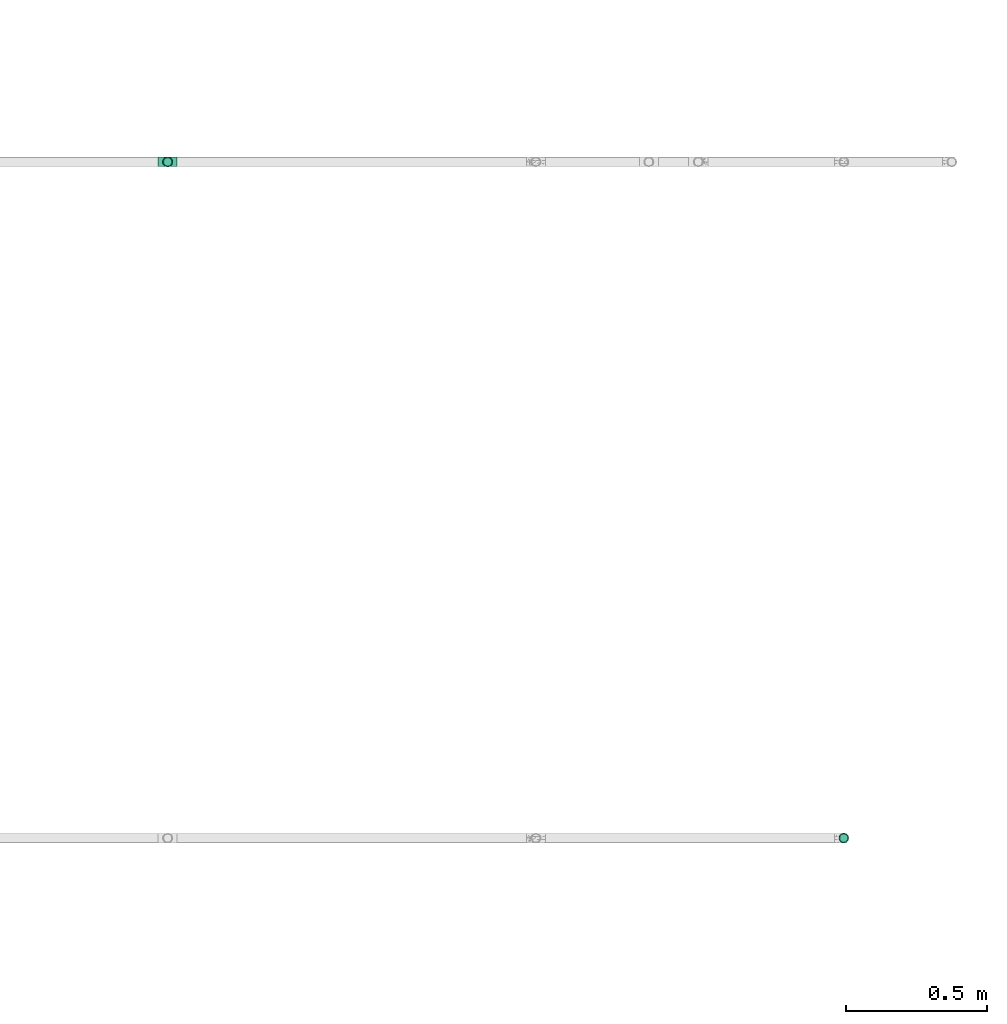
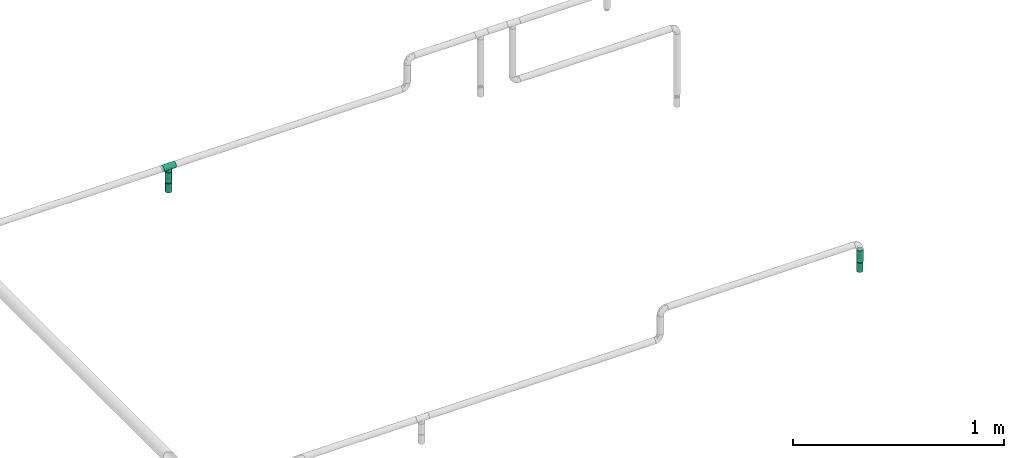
# One storey, part 24 of 45: 3 flow fittings, 2 flow segments, 2 flow terminals.
"""IFC2X3 building model written with IfcOpenShell, lengths in millimetres."""

from ifc_helpers import new_model, entity, si_unit, converted_unit, derived_unit, direction, frame, origin_with_axes, origin_2d_with_axis, place, context, subcontext, project, spatial, hollow_circle, extrude, open_shell, surface_model, source, transform, mapped, type_object, element, save


model = new_model("IFC2X3")

# Units and contexts
model_context = context("Model", 3, precision=0.01, world=frame((0.0, 4.29681676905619e-09, 0.0)), true_north=direction((4.01073788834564e-13, 1.0)))
plan_context = context("Plan", 3, precision=0.01, world=frame((0.0, 4.29681676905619e-09, 0.0)), true_north=direction((4.01073788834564e-13, 1.0)))
body_context = subcontext(model_context, "Body", "Model", "MODEL_VIEW")
ifc_project = project(units=[converted_unit("PLANEANGLEUNIT", "DEGREE", entity("IfcPositiveLengthMeasure", 0.0174532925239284), si_unit("PLANEANGLEUNIT", "RADIAN"), dimensions=[0, 0, 0, 0, 0, 0, 0]), si_unit("AREAUNIT", "SQUARE_METRE"), si_unit("LENGTHUNIT", "METRE", prefix="MILLI"), si_unit("MASSUNIT", "GRAM", prefix="KILO"), si_unit("POWERUNIT", "WATT"), si_unit("PRESSUREUNIT", "PASCAL", prefix="KILO"), si_unit("FORCEUNIT", "NEWTON", prefix="KILO"), si_unit("ELECTRICVOLTAGEUNIT", "VOLT"), si_unit("ELECTRICCURRENTUNIT", "AMPERE"), si_unit("THERMODYNAMICTEMPERATUREUNIT", "DEGREE_CELSIUS"), si_unit("TIMEUNIT", "SECOND"), si_unit("VOLUMEUNIT", "CUBIC_METRE"), derived_unit("LINEARVELOCITYUNIT", [(si_unit("LENGTHUNIT", "METRE"), 1), (si_unit("TIMEUNIT", "SECOND"), -1)]), derived_unit("VOLUMETRICFLOWRATEUNIT", [(si_unit("VOLUMEUNIT", "CUBIC_METRE"), 1), (si_unit("TIMEUNIT", "SECOND"), -1)]), derived_unit("THERMALTRANSMITTANCEUNIT", [(si_unit("POWERUNIT", "WATT"), 1), (si_unit("THERMODYNAMICTEMPERATUREUNIT", "KELVIN"), -1), (si_unit("AREAUNIT", "SQUARE_METRE"), -1)]), derived_unit("SOUNDPRESSUREUNIT", [(si_unit("PRESSUREUNIT", "PASCAL"), 1)])], contexts=[model_context, plan_context])

# Site, building, storey
site_placement = place(None, frame((0.0, -4.29681676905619e-09, 0.0), z_axis=(0.0, 0.0, 1.0), x_axis=(1.0, 0.0, 0.0)))
site = spatial("IfcSite", under=ifc_project, at=site_placement, CompositionType="ELEMENT")
building_placement = place(site_placement, frame((0.0, 4.29681676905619e-09, 0.0), z_axis=(0.0, 0.0, 1.0), x_axis=(1.0, 0.0, 0.0)))
building = spatial("IfcBuilding", under=site, at=building_placement, Name="mc-building", CompositionType="ELEMENT")
storey_placement = place(building_placement, frame((0.0, 0.0, 210200.0), z_axis=(0.0, 0.0, 1.0), x_axis=(1.0, 0.0, 0.0)))
storey = spatial("IfcBuildingStorey", under=building, at=storey_placement, Name="Nivå F - 0,7 m", CompositionType="ELEMENT", Elevation=210200.0)

# Flow fittings
pipe_fitting_type_1 = type_object("IfcPipeFittingType", Name="magi_pipe_fe_tee_centric_90_001", PredefinedType="JUNCTION")
shared_shape_1 = source(origin_with_axes(), body_context, "Body", "SurfaceModel", [
    surface_model("IfcShellBasedSurfaceModel", [(-33.8, 4.37404, -16.32415), (-33.8, 0.0, -16.9), (-33.8, 16.32415, -4.37404), (-33.8, 8.45, -14.63583), (-33.8, 11.9501, -11.9501), (-33.8, 14.63583, -8.45), (-33.8, -16.9, 0.0), (-33.8, -11.9501, -11.9501), (-33.8, -14.63583, -8.45), (-33.8, -8.45, -14.63583), (-33.8, -4.37404, -16.32415), (-33.8, -16.32415, -4.37404), (-33.8, 14.63583, 8.45), (-33.8, 16.32415, 4.37404), (-33.8, -8.45, 14.63583), (-33.8, 8.45, 14.63583), (-33.8, 11.9501, 11.9501), (-33.8, 4.37404, 16.32415), (-33.8, 0.0, 16.9), (-33.8, -11.9501, 11.9501), (-33.8, -14.63583, 8.45), (-33.8, -16.32415, 4.37404), (-33.8, -4.37404, 16.32415), (-33.8, 16.9, 0.0), (33.8, 4.37404, -16.32415), (33.8, -16.9, 0.0), (33.8, 0.0, -16.9), (33.8, 14.63583, -8.45), (33.8, 8.45, -14.63583), (33.8, 16.32415, -4.37404), (33.8, 11.9501, -11.9501), (33.8, -16.32415, 4.37404), (33.8, -8.45, -14.63583), (33.8, -4.37404, -16.32415), (33.8, -11.9501, -11.9501), (33.8, -14.63583, -8.45), (33.8, -16.32415, -4.37404), (33.8, 16.32415, 4.37404), (33.8, 8.45, 14.63583), (33.8, 14.63583, 8.45), (33.8, 11.9501, 11.9501), (33.8, -8.45, 14.63583), (33.8, 4.37404, 16.32415), (33.8, -14.63583, 8.45), (33.8, -11.9501, 11.9501), (33.8, 0.0, 16.9), (33.8, -4.37404, 16.32415), (33.8, 16.9, 0.0), (16.28698, -16.28698, 4.51047), (16.9, -16.9, 0.0), (14.62704, -14.62704, 8.4652), (9.47213, -9.47213, 13.99602), (12.26343, -12.26343, 11.62834), (-16.9, -16.9, 0.0), (-16.28698, -16.28698, 4.51047), (-14.62704, -14.62704, 8.4652), (-12.26343, -12.26343, 11.62834), (-9.47213, -9.47213, 13.99602), (-6.42894, -6.42894, 15.62942), (6.42894, -6.42894, 15.62942), (3.24522, -3.24522, 16.58549), (0.0, 0.0, 16.9), (-3.24522, -3.24522, 16.58549), (3.24522, -3.24522, -16.58549), (0.0, 0.0, -16.9), (-3.24522, -3.24522, -16.58549), (-6.42894, -6.42894, -15.62942), (6.42894, -6.42894, -15.62942), (9.47213, -9.47213, -13.99602), (12.26343, -12.26343, -11.62834), (14.62704, -14.62704, -8.4652), (16.28698, -16.28698, -4.51047), (-9.47213, -9.47213, -13.99602), (-12.26343, -12.26343, -11.62834), (-16.28698, -16.28698, -4.51047), (-14.62704, -14.62704, -8.4652), (4.37404, -25.35, -16.32415), (-16.9, -25.35, 0.0), (0.0, -25.35, -16.9), (14.63583, -25.35, -8.45), (8.45, -25.35, -14.63583), (16.32415, -25.35, -4.37404), (11.9501, -25.35, -11.9501), (-11.9501, -25.35, -11.9501), (-8.45, -25.35, -14.63583), (-4.37404, -25.35, -16.32415), (-14.63583, -25.35, -8.45), (-16.32415, -25.35, -4.37404), (16.9, -25.35, 0.0), (8.45, -25.35, 14.63583), (16.32415, -25.35, 4.37404), (14.63583, -25.35, 8.45), (-8.45, -25.35, 14.63583), (11.9501, -25.35, 11.9501), (4.37404, -25.35, 16.32415), (-16.32415, -25.35, 4.37404), (-11.9501, -25.35, 11.9501), (-14.63583, -25.35, 8.45), (0.0, -25.35, 16.9), (-4.37404, -25.35, 16.32415)], [open_shell([[[0, 1, 2]], [[3, 0, 4]], [[0, 2, 5]], [[4, 0, 5]], [[6, 2, 1]], [[7, 8, 9]], [[1, 10, 9]], [[11, 6, 8]], [[1, 9, 8]], [[1, 8, 6]], [[6, 12, 2]], [[12, 13, 2]], [[14, 12, 6]], [[12, 14, 15]], [[16, 12, 15]], [[17, 15, 18]], [[19, 14, 20]], [[21, 20, 14]], [[22, 18, 14]], [[14, 6, 21]], [[14, 18, 15]], [[23, 2, 13]], [[24, 25, 26]], [[27, 24, 28]], [[27, 29, 24]], [[27, 28, 30]], [[31, 25, 24]], [[26, 32, 33]], [[26, 34, 32]], [[35, 25, 36]], [[35, 34, 26]], [[25, 35, 26]], [[24, 29, 31]], [[29, 37, 38]], [[38, 37, 39]], [[38, 31, 29]], [[38, 39, 40]], [[41, 38, 42]], [[43, 41, 44]], [[41, 43, 31]], [[41, 45, 46]], [[41, 31, 38]], [[42, 45, 41]], [[29, 47, 37]], [[31, 43, 48]], [[25, 31, 49]], [[49, 31, 48]], [[43, 50, 48]], [[44, 41, 51]], [[50, 43, 52]], [[51, 52, 44]], [[52, 43, 44]], [[53, 54, 21]], [[53, 21, 6]], [[21, 54, 20]], [[54, 55, 20]], [[56, 57, 19]], [[19, 20, 56]], [[19, 57, 14]], [[56, 20, 55]], [[14, 57, 58]], [[51, 41, 59]], [[60, 45, 61]], [[59, 46, 60]], [[46, 59, 41]], [[60, 46, 45]], [[61, 45, 42]], [[39, 37, 13]], [[16, 38, 40]], [[12, 40, 39]], [[42, 38, 15]], [[23, 37, 47]], [[62, 61, 18]], [[62, 22, 58]], [[22, 62, 18]], [[58, 22, 14]], [[61, 17, 18]], [[42, 17, 61]], [[15, 17, 42]], [[15, 38, 16]], [[12, 16, 40]], [[13, 12, 39]], [[37, 23, 13]], [[5, 27, 30]], [[23, 47, 29]], [[30, 28, 3]], [[27, 2, 29]], [[26, 33, 63]], [[26, 64, 24]], [[64, 26, 63]], [[28, 24, 0]], [[64, 0, 24]], [[4, 30, 3]], [[2, 27, 5]], [[5, 30, 4]], [[2, 23, 29]], [[65, 66, 10]], [[1, 0, 64]], [[1, 65, 10]], [[66, 9, 10]], [[0, 3, 28]], [[1, 64, 65]], [[63, 33, 67]], [[32, 34, 68]], [[69, 68, 34]], [[35, 70, 69]], [[69, 34, 35]], [[32, 68, 67]], [[36, 25, 49]], [[36, 71, 35]], [[71, 36, 49]], [[35, 71, 70]], [[72, 9, 66]], [[72, 7, 9]], [[7, 72, 73]], [[7, 73, 8]], [[74, 53, 11]], [[75, 74, 8]], [[74, 11, 8]], [[11, 53, 6]], [[75, 8, 73]], [[32, 67, 33]], [[76, 77, 78]], [[79, 76, 80]], [[79, 81, 76]], [[79, 80, 82]], [[77, 76, 81]], [[78, 83, 84]], [[84, 85, 78]], [[86, 77, 87]], [[83, 78, 86]], [[77, 86, 78]], [[81, 88, 77]], [[89, 88, 90]], [[89, 90, 91]], [[92, 77, 89]], [[89, 91, 93]], [[92, 89, 94]], [[95, 96, 97]], [[96, 95, 92]], [[92, 98, 99]], [[95, 77, 92]], [[94, 98, 92]], [[89, 77, 88]], [[77, 95, 53]], [[54, 53, 95]], [[97, 96, 56]], [[96, 92, 57]], [[95, 97, 54]], [[58, 92, 99]], [[55, 54, 97]], [[56, 55, 97]], [[58, 57, 92]], [[98, 61, 62]], [[58, 99, 62]], [[56, 96, 57]], [[62, 99, 98]], [[94, 60, 98]], [[89, 59, 94]], [[91, 90, 48]], [[52, 93, 91]], [[93, 51, 89]], [[49, 90, 88]], [[59, 60, 94]], [[51, 59, 89]], [[49, 48, 90]], [[50, 52, 91]], [[48, 50, 91]], [[51, 93, 52]], [[98, 60, 61]], [[88, 81, 49]], [[71, 49, 81]], [[79, 82, 69]], [[82, 80, 68]], [[81, 79, 71]], [[67, 80, 76]], [[70, 71, 79]], [[69, 70, 79]], [[67, 68, 80]], [[78, 64, 63]], [[67, 76, 63]], [[69, 82, 68]], [[63, 76, 78]], [[85, 65, 78]], [[84, 66, 85]], [[86, 87, 74]], [[86, 73, 83]], [[72, 84, 83]], [[53, 87, 77]], [[66, 65, 85]], [[72, 66, 84]], [[53, 74, 87]], [[75, 73, 86]], [[74, 75, 86]], [[72, 83, 73]], [[78, 65, 64]]])]),
])
flow_fitting_placement = place(storey_placement, frame((330819.17326, 466128.25463, 3145.0), z_axis=(0.0, 1.0, 0.0), x_axis=(-1.0, 0.0, 0.0)))
element("IfcFlowFitting", 1, at=flow_fitting_placement, inside=storey, type_object=pipe_fitting_type_1, Name="magi_pipe_fe_tee_centric_90_001", context=body_context, shape_type="MappedRepresentation", body=[
    mapped(shared_shape_1, transform((0.0, 0.0, 0.0), scale=1.0)),
])
pipe_fitting_type_2 = type_object("IfcPipeFittingType", Name="magi_pipe_fe_reducer_centric_short_001", PredefinedType="TRANSITION")
shared_shape_2 = source(origin_with_axes(), body_context, "Body", "SurfaceModel", [
    surface_model("IfcShellBasedSurfaceModel", [(9.0, 4.37404, -16.32415), (9.0, 8.45, -14.63583), (9.0, 11.9501, -11.9501), (9.0, 0.0, -16.9), (9.0, 16.32415, -4.37404), (9.0, 16.32415, 4.37404), (9.0, 14.63583, -8.45), (9.0, -8.45, -14.63583), (9.0, -4.37404, -16.32415), (9.0, -11.9501, -11.9501), (9.0, -16.32415, -4.37404), (9.0, -14.63583, -8.45), (9.0, -16.32415, 4.37404), (9.0, 16.9, 0.0), (9.0, 14.63583, 8.45), (9.0, 11.9501, 11.9501), (9.0, 4.37404, 16.32415), (9.0, 0.0, 16.9), (9.0, 8.45, 14.63583), (9.0, -14.63583, 8.45), (9.0, -16.9, 0.0), (9.0, -8.45, 14.63583), (9.0, -11.9501, 11.9501), (9.0, -4.37404, 16.32415), (7.0, 4.37404, 16.32415), (7.0, -14.63583, 8.45), (7.0, 0.0, 16.9), (7.0, 16.32415, 4.37404), (7.0, 8.45, 14.63583), (7.0, 11.9501, 11.9501), (7.0, 14.63583, 8.45), (7.0, -8.45, 14.63583), (7.0, -11.9501, 11.9501), (7.0, -4.37404, 16.32415), (7.0, -16.32415, 4.37404), (7.0, -16.32415, -4.37404), (7.0, -16.9, 0.0), (7.0, -8.45, -14.63583), (7.0, 16.32415, -4.37404), (7.0, 11.9501, -11.9501), (7.0, 14.63583, -8.45), (7.0, 8.45, -14.63583), (7.0, 4.37404, -16.32415), (7.0, 0.0, -16.9), (7.0, -11.9501, -11.9501), (7.0, -14.63583, -8.45), (7.0, -4.37404, -16.32415), (7.0, 16.9, 0.0), (-2.0, -9.47523, 9.47523), (-2.0, 0.0, 13.4), (-2.0, 3.46818, 12.94341), (-2.0, 6.7, 11.60474), (-2.0, 9.47523, 9.47523), (-2.0, 11.60474, 6.7), (-2.0, 12.94341, 3.46818), (-2.0, -3.46818, 12.94341), (-2.0, -6.7, 11.60474), (-2.0, -12.94341, 3.46818), (-2.0, -11.60474, 6.7), (-2.0, -6.7, -11.60474), (-2.0, -12.94341, -3.46818), (-2.0, -13.4, 0.0), (-2.0, 12.94341, -3.46818), (-2.0, 6.7, -11.60474), (-2.0, 9.47523, -9.47523), (-2.0, 11.60474, -6.7), (-2.0, 3.46818, -12.94341), (-2.0, 0.0, -13.4), (-2.0, -9.47523, -9.47523), (-2.0, -11.60474, -6.7), (-2.0, -3.46818, -12.94341), (-2.0, 13.4, 0.0), (0.0, 12.94341, -3.46818), (0.0, 3.46818, -12.94341), (0.0, 6.7, -11.60474), (0.0, 11.60474, -6.7), (0.0, 9.47523, -9.47523), (0.0, -6.7, -11.60474), (0.0, -12.94341, 3.46818), (0.0, -3.46818, -12.94341), (0.0, 0.0, -13.4), (0.0, -9.47523, -9.47523), (0.0, -12.94341, -3.46818), (0.0, -11.60474, -6.7), (0.0, 13.4, 0.0), (0.0, 12.94341, 3.46818), (0.0, 11.60474, 6.7), (0.0, 9.47523, 9.47523), (0.0, 0.0, 13.4), (0.0, 6.7, 11.60474), (0.0, 3.46818, 12.94341), (0.0, -9.47523, 9.47523), (0.0, -11.60474, 6.7), (0.0, -13.4, 0.0), (0.0, -3.46818, 12.94341), (0.0, -6.7, 11.60474), (7.0, -14.51228, -5.76448), (0.0, -11.43761, -4.73762), (7.0, -13.23119, -8.85729), (0.0, -10.45642, -7.10642), (0.0, -12.41881, -2.36881), (7.0, -15.70614, -2.88224), (0.0, -2.36881, -12.41881), (7.0, -5.97505, -14.42505), (0.0, -7.10642, -10.45642), (0.0, -4.73762, -11.43761), (7.0, -2.98753, -15.66253), (7.0, -8.96258, -13.18758), (7.0, 2.98753, -15.66253), (0.0, 2.36881, -12.41881), (0.0, 12.45339, -2.28533), (7.0, 13.18758, -8.96258), (0.0, 10.45642, -7.10642), (7.0, 14.42505, -5.97505), (0.0, 11.43761, -4.73762), (0.0, 7.10642, -10.45642), (7.0, 8.96258, -13.18758), (7.0, 15.66253, -2.98753), (0.0, 4.73762, -11.43761), (7.0, 5.97505, -14.42505), (7.0, 14.51228, 5.76448), (0.0, 11.43761, 4.73762), (7.0, 13.23119, 8.85729), (0.0, 10.45642, 7.10642), (0.0, 12.41881, 2.36881), (7.0, 15.70614, 2.88224), (0.0, 2.36881, 12.41881), (7.0, 5.97505, 14.42505), (0.0, 7.10642, 10.45642), (0.0, 4.73762, 11.43761), (7.0, 2.98753, 15.66253), (7.0, 8.96258, 13.18758), (7.0, -2.98753, 15.66253), (0.0, -2.36881, 12.41881), (0.0, -12.45339, 2.28533), (7.0, -13.18758, 8.96258), (0.0, -10.45642, 7.10642), (7.0, -14.42505, 5.97505), (0.0, -11.43761, 4.73762), (0.0, -7.10642, 10.45642), (7.0, -8.96258, 13.18758), (7.0, -15.66253, 2.98753), (0.0, -4.73762, 11.43761), (7.0, -5.97505, 14.42505)], [open_shell([[[0, 1, 2]], [[3, 0, 2]], [[2, 4, 5]], [[4, 2, 6]], [[2, 5, 7]], [[3, 7, 8]], [[3, 2, 7]], [[9, 10, 11]], [[10, 9, 7]], [[7, 12, 10]], [[5, 4, 13]], [[5, 14, 15]], [[5, 15, 16]], [[16, 17, 5]], [[16, 15, 18]], [[5, 17, 19]], [[5, 19, 12]], [[20, 10, 12]], [[19, 21, 22]], [[19, 17, 21]], [[21, 17, 23]], [[12, 7, 5]], [[24, 25, 26]], [[27, 24, 28]], [[29, 30, 27]], [[29, 27, 28]], [[25, 24, 27]], [[31, 25, 32]], [[25, 31, 33]], [[26, 25, 33]], [[27, 34, 25]], [[34, 35, 36]], [[34, 27, 37]], [[27, 38, 39]], [[39, 38, 40]], [[39, 41, 42]], [[37, 27, 39]], [[42, 43, 39]], [[35, 44, 45]], [[44, 35, 37]], [[37, 43, 46]], [[35, 34, 37]], [[39, 43, 37]], [[38, 27, 47]], [[35, 10, 36]], [[45, 11, 35]], [[7, 44, 37]], [[45, 44, 9]], [[8, 37, 46]], [[35, 11, 10]], [[10, 20, 36]], [[8, 7, 37]], [[9, 44, 7]], [[9, 11, 45]], [[3, 8, 46]], [[46, 43, 3]], [[42, 0, 43]], [[41, 1, 42]], [[6, 39, 40]], [[41, 39, 2]], [[4, 40, 38]], [[41, 2, 1]], [[1, 0, 42]], [[13, 4, 38]], [[6, 40, 4]], [[6, 2, 39]], [[47, 13, 38]], [[43, 0, 3]], [[27, 5, 47]], [[30, 14, 27]], [[18, 29, 28]], [[30, 29, 15]], [[16, 28, 24]], [[27, 14, 5]], [[5, 13, 47]], [[16, 18, 28]], [[15, 29, 18]], [[15, 14, 30]], [[17, 16, 24]], [[24, 26, 17]], [[33, 23, 26]], [[31, 21, 33]], [[19, 32, 25]], [[31, 32, 22]], [[12, 25, 34]], [[31, 22, 21]], [[21, 23, 33]], [[20, 12, 34]], [[19, 25, 12]], [[19, 22, 32]], [[36, 20, 34]], [[26, 23, 17]], [[48, 49, 50]], [[51, 48, 50]], [[52, 53, 54]], [[52, 54, 51]], [[48, 51, 54]], [[55, 48, 56]], [[55, 49, 48]], [[48, 57, 58]], [[48, 59, 57]], [[57, 60, 61]], [[62, 48, 54]], [[48, 62, 63]], [[64, 62, 65]], [[66, 48, 63]], [[63, 62, 64]], [[66, 67, 48]], [[60, 68, 69]], [[60, 57, 68]], [[70, 59, 48]], [[57, 59, 68]], [[70, 48, 67]], [[71, 62, 54]], [[72, 73, 74]], [[75, 74, 76]], [[77, 73, 78]], [[72, 74, 75]], [[73, 72, 78]], [[73, 79, 80]], [[73, 77, 79]], [[81, 82, 83]], [[78, 82, 81]], [[81, 77, 78]], [[72, 84, 78]], [[85, 86, 87]], [[85, 87, 88]], [[89, 90, 88]], [[89, 88, 87]], [[85, 88, 91]], [[78, 91, 92]], [[93, 82, 78]], [[91, 94, 95]], [[91, 78, 85]], [[94, 91, 88]], [[78, 84, 85]], [[60, 82, 61]], [[69, 83, 60]], [[77, 68, 59]], [[69, 68, 81]], [[79, 59, 70]], [[60, 83, 82]], [[82, 93, 61]], [[79, 77, 59]], [[81, 68, 77]], [[81, 83, 69]], [[80, 79, 70]], [[70, 67, 80]], [[66, 73, 67]], [[63, 74, 66]], [[75, 64, 65]], [[63, 64, 76]], [[72, 65, 62]], [[63, 76, 74]], [[74, 73, 66]], [[84, 72, 62]], [[75, 65, 72]], [[75, 76, 64]], [[71, 84, 62]], [[67, 73, 80]], [[54, 85, 71]], [[53, 86, 54]], [[89, 52, 51]], [[53, 52, 87]], [[90, 51, 50]], [[54, 86, 85]], [[85, 84, 71]], [[90, 89, 51]], [[87, 52, 89]], [[87, 86, 53]], [[88, 90, 50]], [[50, 49, 88]], [[55, 94, 49]], [[56, 95, 55]], [[92, 48, 58]], [[56, 48, 91]], [[78, 58, 57]], [[56, 91, 95]], [[95, 94, 55]], [[93, 78, 57]], [[92, 58, 78]], [[92, 91, 48]], [[61, 93, 57]], [[49, 94, 88]], [[36, 29, 26]], [[39, 47, 29]], [[26, 32, 36]], [[36, 44, 43]], [[43, 39, 36]], [[36, 39, 29]], [[81, 91, 88]], [[81, 93, 91]], [[88, 87, 84]], [[84, 76, 81]], [[80, 81, 76]], [[84, 81, 88]], [[96, 97, 98]], [[81, 44, 99]], [[100, 96, 101]], [[102, 80, 43]], [[103, 104, 105]], [[102, 43, 106]], [[107, 81, 104]], [[108, 80, 109]], [[110, 84, 47]], [[93, 101, 36]], [[108, 43, 80]], [[111, 76, 112]], [[113, 112, 114]], [[115, 39, 116]], [[110, 47, 117]], [[99, 98, 97]], [[117, 113, 114]], [[106, 103, 105]], [[118, 116, 119]], [[109, 118, 119]], [[96, 100, 97]], [[93, 100, 101]], [[99, 44, 98]], [[104, 103, 107]], [[107, 44, 81]], [[106, 105, 102]], [[112, 113, 111]], [[111, 39, 76]], [[117, 114, 110]], [[116, 118, 115]], [[115, 76, 39]], [[109, 119, 108]], [[120, 121, 122]], [[87, 29, 123]], [[124, 120, 125]], [[126, 88, 26]], [[127, 128, 129]], [[126, 26, 130]], [[131, 87, 128]], [[132, 88, 133]], [[134, 93, 36]], [[84, 125, 47]], [[132, 26, 88]], [[135, 91, 136]], [[137, 136, 138]], [[139, 32, 140]], [[134, 36, 141]], [[123, 122, 121]], [[141, 137, 138]], [[130, 127, 129]], [[142, 140, 143]], [[133, 142, 143]], [[120, 124, 121]], [[84, 124, 125]], [[123, 29, 122]], [[128, 127, 131]], [[131, 29, 87]], [[130, 129, 126]], [[136, 137, 135]], [[135, 32, 91]], [[141, 138, 134]], [[140, 142, 139]], [[139, 91, 32]], [[133, 143, 132]]])]),
])
for number, where, z_axis, x_axis, name in (
    (2, (333219.17326, 463728.25463, 3206.95199999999), (0.0, -1.0, 0.0), (0.0, 0.0, 1.0), "magi_pipe_fe_reducer_centric_short_001"),
    (3, (330819.17326, 466128.25463, 3051.95199999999), (0.0, -1.0, 0.0), (0.0, 0.0, 1.0), "magi_pipe_fe_reducer_centric_short_001"),
):
    element("IfcFlowFitting", number, at=place(storey_placement, frame(where, z_axis=z_axis, x_axis=x_axis)), inside=storey, type_object=pipe_fitting_type_2, Name=name, context=body_context, shape_type="MappedRepresentation", body=[
        mapped(shared_shape_2, transform((0.0, 0.0, 0.0), scale=1.0)),
    ])

# Flow segments
pipe_segment_type = type_object("IfcPipeSegmentType", Name="Stålrør normaltykke", PredefinedType="RIGIDSEGMENT")
shared_shape_3 = source(origin_with_axes(), body_context, "Body", "SweptSolid", [
    extrude(hollow_circle(Radius=16.9, WallThickness=2.0, at=origin_2d_with_axis()), frame((0.0, 0.0, 0.0), z_axis=(1.0, 0.0, 0.0), x_axis=(0.0, 1.0, 0.0)), (0.0, 0.0, 1.0), 68.9),
])
flow_segment_1_placement = place(storey_placement, frame((333219.17326, 463728.25463, 3282.8898), z_axis=(0.0, -1.0, 0.0), x_axis=(0.0, 0.0, -1.0)))
element("IfcFlowSegment", 4, at=flow_segment_1_placement, inside=storey, type_object=pipe_segment_type, Name="Stålrør normaltykke", context=body_context, shape_type="MappedRepresentation", body=[
    mapped(shared_shape_3, transform((0.0, 0.0, 0.0), scale=1.0)),
])
shared_shape_4 = source(origin_with_axes(), body_context, "Body", "SweptSolid", [
    extrude(hollow_circle(Radius=16.9, WallThickness=2.0, at=origin_2d_with_axis()), frame((0.0, 0.0, 0.0), z_axis=(1.0, 0.0, 0.0), x_axis=(0.0, 1.0, 0.0)), (0.0, 0.0, 1.0), 60.7),
])
flow_segment_2_placement = place(storey_placement, frame((330819.17326, 466128.25463, 3119.64999999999), z_axis=(0.0, -1.0, 0.0), x_axis=(0.0, 0.0, -1.0)))
element("IfcFlowSegment", 5, at=flow_segment_2_placement, inside=storey, type_object=pipe_segment_type, Name="Stålrør normaltykke", context=body_context, shape_type="MappedRepresentation", body=[
    mapped(shared_shape_4, transform((0.0, 0.0, 0.0), scale=1.0)),
])

# Flow terminals
fire_suppression_terminal_type = type_object("IfcFireSuppressionTerminalType", Name="SP-15-K80-68DGR-STD-HIMLING", PredefinedType="NOTDEFINED")
shared_shape_5 = source(origin_with_axes(), body_context, "Body", "SurfaceModel", [
    surface_model("IfcShellBasedSurfaceModel", [(4.1411, -15.45481, 53.0), (8.0, -13.85641, 53.0), (11.31371, -11.31371, 53.0), (-8.0, -13.85641, 53.0), (15.45481, -4.1411, 53.0), (16.0, 0.0, 53.0), (13.85641, -8.0, 53.0), (0.0, -16.0, 53.0), (-4.1411, -15.45481, 53.0), (-13.85641, -8.0, 53.0), (-11.31371, -11.31371, 53.0), (-15.45481, -4.1411, 53.0), (15.45481, 4.1411, 53.0), (13.85641, 8.0, 53.0), (11.31371, 11.31371, 53.0), (-4.1411, 15.45481, 53.0), (8.0, 13.85641, 53.0), (4.1411, 15.45481, 53.0), (0.0, 16.0, 53.0), (-13.85641, 8.0, 53.0), (-15.45481, 4.1411, 53.0), (-16.0, 0.0, 53.0), (-11.31371, 11.31371, 53.0), (-8.0, 13.85641, 53.0), (0.0, 16.0, 0.0), (4.1411, 15.45481, 0.0), (8.0, 13.85641, 0.0), (-4.1411, 15.45481, 0.0), (11.31371, 11.31371, 0.0), (13.85641, 8.0, 0.0), (15.45481, 4.1411, 0.0), (-15.45481, -4.1411, 0.0), (-11.31371, 11.31371, 0.0), (-8.0, 13.85641, 0.0), (-13.85641, 8.0, 0.0), (-15.45481, 4.1411, 0.0), (-16.0, 0.0, 0.0), (4.1411, -15.45481, 0.0), (16.0, 0.0, 0.0), (15.45481, -4.1411, 0.0), (13.85641, -8.0, 0.0), (11.31371, -11.31371, 0.0), (8.0, -13.85641, 0.0), (-8.0, -13.85641, 0.0), (-13.85641, -8.0, 0.0), (-11.31371, -11.31371, 0.0), (0.0, -16.0, 0.0), (-4.1411, -15.45481, 0.0)], [open_shell([[[0, 1, 2]], [[3, 0, 2]], [[4, 5, 2]], [[4, 2, 6]], [[3, 2, 5]], [[7, 3, 8]], [[7, 0, 3]], [[3, 9, 10]], [[9, 3, 11]], [[5, 11, 3]], [[5, 12, 11]], [[12, 13, 14]], [[15, 12, 14]], [[16, 17, 18]], [[14, 16, 15]], [[18, 15, 16]], [[11, 19, 20]], [[21, 11, 20]], [[22, 15, 23]], [[15, 22, 19]], [[19, 11, 15]], [[11, 12, 15]], [[24, 25, 26]], [[27, 24, 26]], [[28, 29, 30]], [[27, 26, 28]], [[27, 28, 31]], [[27, 32, 33]], [[32, 27, 34]], [[34, 31, 35]], [[31, 34, 27]], [[35, 31, 36]], [[28, 30, 31]], [[37, 38, 39]], [[37, 39, 40]], [[41, 42, 37]], [[41, 37, 40]], [[38, 37, 43]], [[44, 43, 45]], [[43, 44, 31]], [[43, 46, 47]], [[43, 31, 38]], [[37, 46, 43]], [[38, 31, 30]], [[11, 31, 44]], [[45, 9, 44]], [[3, 43, 47]], [[45, 43, 10]], [[8, 47, 46]], [[31, 21, 36]], [[31, 11, 21]], [[44, 9, 11]], [[45, 10, 9]], [[3, 10, 43]], [[47, 8, 3]], [[46, 7, 8]], [[0, 37, 42]], [[41, 1, 42]], [[6, 40, 39]], [[41, 40, 2]], [[4, 39, 38]], [[37, 0, 7]], [[42, 1, 0]], [[41, 2, 1]], [[40, 6, 2]], [[4, 6, 39]], [[38, 5, 4]], [[37, 7, 46]], [[12, 38, 30]], [[13, 30, 29]], [[16, 26, 25]], [[17, 25, 24]], [[30, 13, 12]], [[12, 5, 38]], [[28, 14, 13]], [[28, 26, 14]], [[14, 26, 16]], [[25, 17, 16]], [[28, 13, 29]], [[24, 18, 17]], [[15, 27, 33]], [[32, 23, 33]], [[19, 34, 35]], [[32, 34, 22]], [[20, 35, 36]], [[27, 15, 18]], [[33, 23, 15]], [[32, 22, 23]], [[34, 19, 22]], [[20, 19, 35]], [[36, 21, 20]], [[27, 18, 24]]])]),
])
for number, where, z_axis, x_axis in (
    (6, (333219.17326, 463728.25463, 3210.0), (0.0, 0.0, -1.0), (-1.0, 0.0, 0.0)),
    (7, (330819.17326, 466128.25463, 3055.0), (0.0, 0.0, -1.0), (-1.0, 0.0, 0.0)),
):
    element("IfcFlowTerminal", number, at=place(storey_placement, frame(where, z_axis=z_axis, x_axis=x_axis)), inside=storey, type_object=fire_suppression_terminal_type, Name="SP-15-K80-68DGR-STD-HIMLING", context=body_context, shape_type="MappedRepresentation", body=[
        mapped(shared_shape_5, transform((0.0, 0.0, 0.0), scale=1.0)),
    ])

save(model, "model.ifc")
